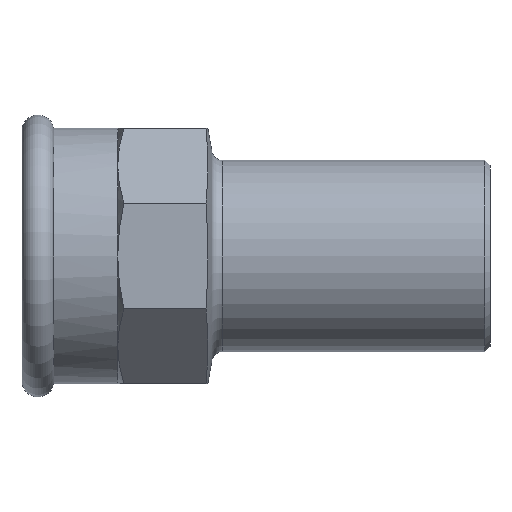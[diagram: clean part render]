
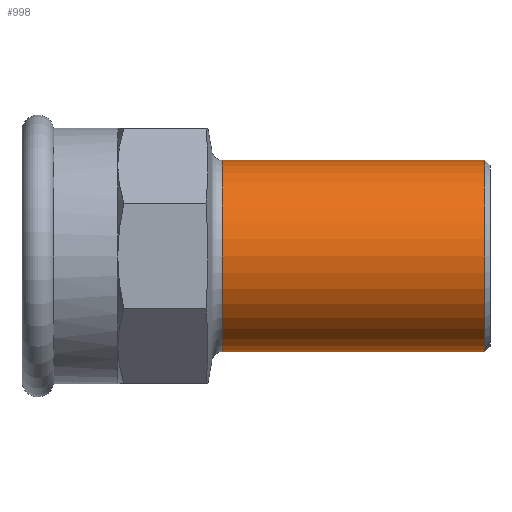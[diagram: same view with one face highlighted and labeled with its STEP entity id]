
A CAD part, left-side view. The second image highlights one B-rep face of the part: STEP entity #998.
In plain terms, the highlighted cylindrical face has radius 9 mm (diameter 18 mm), a partial arc.
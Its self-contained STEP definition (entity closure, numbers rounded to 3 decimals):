
#7 = CARTESIAN_POINT ( 'NONE',  ( 0., 25.161, 9. ) ) ;
#32 = VERTEX_POINT ( 'NONE', #7 ) ;
#56 = LINE ( 'NONE', #740, #501 ) ;
#63 = CYLINDRICAL_SURFACE ( 'NONE', #191, 9. ) ;
#76 = EDGE_CURVE ( 'NONE', #32, #1070, #807, .T. ) ;
#128 = VERTEX_POINT ( 'NONE', #562 ) ;
#191 = AXIS2_PLACEMENT_3D ( 'NONE', #928, #575, #1044 ) ;
#232 = AXIS2_PLACEMENT_3D ( 'NONE', #791, #785, #703 ) ;
#288 = EDGE_CURVE ( 'NONE', #32, #1199, #824, .T. ) ;
#307 = ORIENTED_EDGE ( 'NONE', *, *, #76, .F. ) ;
#362 = EDGE_LOOP ( 'NONE', ( #307, #500, #488, #448 ) ) ;
#374 = CARTESIAN_POINT ( 'NONE',  ( 0., 25.161, 0. ) ) ;
#448 = ORIENTED_EDGE ( 'NONE', *, *, #864, .F. ) ;
#488 = ORIENTED_EDGE ( 'NONE', *, *, #788, .T. ) ;
#493 = CARTESIAN_POINT ( 'NONE',  ( 0., 0.5, 9. ) ) ;
#500 = ORIENTED_EDGE ( 'NONE', *, *, #288, .T. ) ;
#501 = VECTOR ( 'NONE', #743, 1000. ) ;
#562 = CARTESIAN_POINT ( 'NONE',  ( 0., 0.5, -9. ) ) ;
#575 = DIRECTION ( 'NONE',  ( 0., -1., 0. ) ) ;
#703 = DIRECTION ( 'NONE',  ( 0., 0., -1. ) ) ;
#740 = CARTESIAN_POINT ( 'NONE',  ( 0., -17.811, -9. ) ) ;
#743 = DIRECTION ( 'NONE',  ( 0., -1., 0. ) ) ;
#756 = AXIS2_PLACEMENT_3D ( 'NONE', #374, #1108, #1150 ) ;
#780 = VECTOR ( 'NONE', #1125, 1000. ) ;
#785 = DIRECTION ( 'NONE',  ( 0., -1., 0. ) ) ;
#788 = EDGE_CURVE ( 'NONE', #1199, #128, #56, .T. ) ;
#791 = CARTESIAN_POINT ( 'NONE',  ( 0., 0.5, 0. ) ) ;
#807 = LINE ( 'NONE', #1058, #780 ) ;
#824 = CIRCLE ( 'NONE', #756, 9. ) ;
#864 = EDGE_CURVE ( 'NONE', #1070, #128, #951, .T. ) ;
#928 = CARTESIAN_POINT ( 'NONE',  ( 0., -17.811, 0. ) ) ;
#951 = CIRCLE ( 'NONE', #232, 9. ) ;
#998 = ADVANCED_FACE ( 'NONE', ( #1042 ), #63, .T. ) ;
#1042 = FACE_OUTER_BOUND ( 'NONE', #362, .T. ) ;
#1044 = DIRECTION ( 'NONE',  ( 0., 0., -1. ) ) ;
#1058 = CARTESIAN_POINT ( 'NONE',  ( 0., -17.811, 9. ) ) ;
#1070 = VERTEX_POINT ( 'NONE', #493 ) ;
#1108 = DIRECTION ( 'NONE',  ( 0., -1., 0. ) ) ;
#1125 = DIRECTION ( 'NONE',  ( 0., -1., 0. ) ) ;
#1133 = CARTESIAN_POINT ( 'NONE',  ( 0., 25.161, -9. ) ) ;
#1150 = DIRECTION ( 'NONE',  ( 0., 0., -1. ) ) ;
#1199 = VERTEX_POINT ( 'NONE', #1133 ) ;
